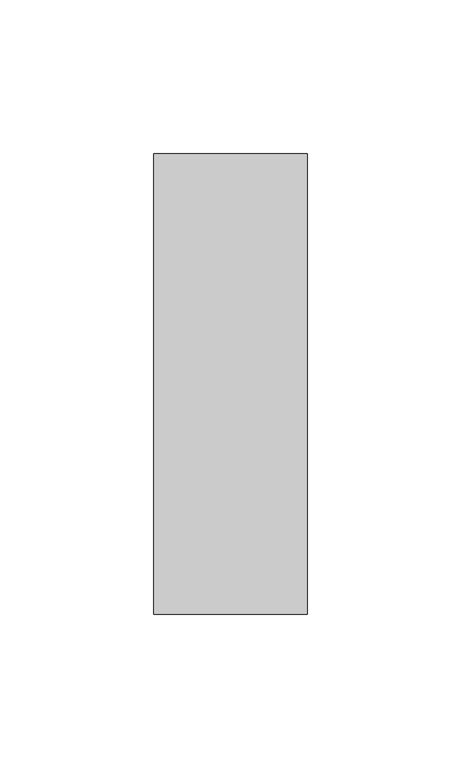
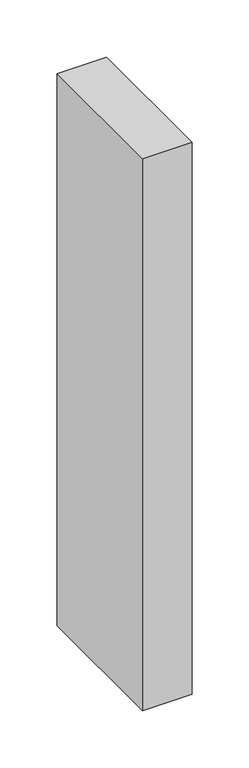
"""IFC4 building model written with IfcOpenShell, lengths in millimetres: member geometry, Прямоугольный импост : 50 x 150 мм."""

import ifcopenshell
import ifcopenshell.guid

model = None  # the IFC model being written
_history = None  # IfcOwnerHistory: only IFC2X3 demands one
_inside = {}  # id of a spatial element -> (the spatial element, [elements in it])
_under = {}  # id of a project, library or spatial element -> (it, [spatial elements below it])
_declared = {}  # id of a project -> (the project, [libraries it declares])
_typed = {}  # id of a type object -> (the type object, [elements of that type])
_made_of = {}  # id of a material, layer set ... -> (it, [elements and type objects made of it])


def new_model(schema):
    """Start an empty IFC model of exactly this schema.

    Asked for "IFC4X3", IfcOpenShell would pick the latest addendum, in which some entities
    have other attributes; the version numbers below select the first issue.
    IFC2X3 requires an IfcOwnerHistory on every rooted entity: one is made here for all.
    """
    global model, _history
    if schema == "IFC4X3":
        model = ifcopenshell.file(schema_version=(4, 3, 0, 0))
    else:
        model = ifcopenshell.file(schema=schema)
    _inside.clear()
    _under.clear()
    _declared.clear()
    _typed.clear()
    _made_of.clear()
    _history = None
    if model.schema == "IFC2X3":
        org = make("IfcOrganization", Name="unknown")
        user = make(
            "IfcPersonAndOrganization",
            ThePerson=make("IfcPerson", FamilyName="unknown"),
            TheOrganization=org,
        )
        app = make(
            "IfcApplication",
            ApplicationDeveloper=org,
            Version="unknown",
            ApplicationFullName="unknown",
            ApplicationIdentifier="unknown",
        )
        _history = make(
            "IfcOwnerHistory",
            OwningUser=user,
            OwningApplication=app,
            ChangeAction="ADDED",
            CreationDate=0,
        )
    return model


def make(cls, **values):
    """One entity of the class cls with the attributes given. An attribute that is None is left unset."""
    return model.create_entity(
        cls, **{name: value for name, value in values.items() if value is not None}
    )


def rooted(cls, **values):
    """An entity with a GlobalId (a new one), such as an element, a storey or a relation."""
    return make(cls, GlobalId=ifcopenshell.guid.new(), OwnerHistory=_history, **values)


def si_unit(unit_type, name, prefix=None):
    """IfcSIUnit, for example si_unit("LENGTHUNIT", "METRE", prefix="MILLI")."""
    return make("IfcSIUnit", UnitType=unit_type, Prefix=prefix, Name=name)


def assignment(units):
    """IfcUnitAssignment: the units of a project."""
    return None if units is None else make("IfcUnitAssignment", Units=units)


def point(xyz):
    """IfcCartesianPoint."""
    return None if xyz is None else make("IfcCartesianPoint", Coordinates=xyz)


def direction(xyz):
    """IfcDirection."""
    return None if xyz is None else make("IfcDirection", DirectionRatios=xyz)


def frame(location, z_axis=None, x_axis=None):
    """IfcAxis2Placement3D, a coordinate frame: its origin and axes. An axis left out is left unset."""
    return make(
        "IfcAxis2Placement3D",
        Location=point(location),
        Axis=direction(z_axis),
        RefDirection=direction(x_axis),
    )


def origin():
    """The frame at (0, 0, 0) with its axes left unset."""
    return frame((0.0, 0.0, 0.0))


def place(relative_to, where):
    """IfcLocalPlacement: puts the frame where relative to a parent placement (None: the world)."""
    return make(
        "IfcLocalPlacement", PlacementRelTo=relative_to, RelativePlacement=where
    )


def context(
    kind, dimensions, precision=None, world=None, true_north=None, identifier=None
):
    """IfcGeometricRepresentationContext, for example the 3D "Model" context."""
    return make(
        "IfcGeometricRepresentationContext",
        ContextIdentifier=identifier,
        ContextType=kind,
        CoordinateSpaceDimension=dimensions,
        Precision=precision,
        WorldCoordinateSystem=world,
        TrueNorth=true_north,
    )


def project(units=None, contexts=None):
    """IfcProject with its units and contexts."""
    return rooted(
        "IfcProject",
        Name="project",
        RepresentationContexts=contexts,
        UnitsInContext=assignment(units),
    )


def spatial(cls, under=None, at=None, **own):
    """A site, building, storey or space (cls), placed at a placement, below another one or the project."""
    s = rooted(cls, ObjectPlacement=at, **own)
    if under is not None:
        _under.setdefault(under.id(), (under, []))[1].append(s)
    return s


def polyline(points):
    """IfcPolyline through the points."""
    return make("IfcPolyline", Points=[point(p) for p in points])


def outline(outer, holes=None, kind="AREA"):
    """IfcArbitraryClosedProfileDef: a profile drawn as a closed curve; with holes, ...WithVoids."""
    if holes is None:
        return make("IfcArbitraryClosedProfileDef", ProfileType=kind, OuterCurve=outer)
    return make(
        "IfcArbitraryProfileDefWithVoids",
        ProfileType=kind,
        OuterCurve=outer,
        InnerCurves=holes,
    )


def extrude(swept, where, along, depth):
    """IfcExtrudedAreaSolid: the profile swept, set in the frame where, extruded along a direction by depth."""
    return make(
        "IfcExtrudedAreaSolid",
        SweptArea=swept,
        Position=where,
        ExtrudedDirection=direction(along),
        Depth=depth,
    )


def shape(context_of_items, identifier, shape_type, items):
    """IfcShapeRepresentation: the items that make up one representation, for example the "Body"."""
    return make(
        "IfcShapeRepresentation",
        ContextOfItems=context_of_items,
        RepresentationIdentifier=identifier,
        RepresentationType=shape_type,
        Items=items,
    )


def source(mapping_origin, context_of_items, identifier, shape_type, items):
    """IfcRepresentationMap: a shape defined once, which mapped items show again and again."""
    return make(
        "IfcRepresentationMap",
        MappingOrigin=mapping_origin,
        MappedRepresentation=shape(context_of_items, identifier, shape_type, items),
    )


def transform(
    local_origin,
    x_axis=None,
    y_axis=None,
    z_axis=None,
    scale=None,
    scale2=None,
    scale3=None,
    uniform=True,
):
    """IfcCartesianTransformationOperator3D, or its non-uniform kind. x_axis, y_axis, z_axis: its Axis1, 2, 3."""
    if uniform:
        return make(
            "IfcCartesianTransformationOperator3D",
            Axis1=direction(x_axis),
            Axis2=direction(y_axis),
            LocalOrigin=point(local_origin),
            Scale=scale,
            Axis3=direction(z_axis),
        )
    return make(
        "IfcCartesianTransformationOperator3DnonUniform",
        Axis1=direction(x_axis),
        Axis2=direction(y_axis),
        LocalOrigin=point(local_origin),
        Scale=scale,
        Axis3=direction(z_axis),
        Scale2=scale2,
        Scale3=scale3,
    )


def mapped(mapping_source, mapping_target):
    """IfcMappedItem: shows the shape of a source again, moved by a transform."""
    return make(
        "IfcMappedItem", MappingSource=mapping_source, MappingTarget=mapping_target
    )


def made_of(thing, what):
    """Note that an element or type object is made of a material, layer set ...; save() writes the relation."""
    if what is not None:
        _made_of.setdefault(what.id(), (what, []))[1].append(thing)
    return thing


def element(
    cls,
    number,
    at=None,
    inside=None,
    cuts=None,
    type_object=None,
    material=None,
    context=None,
    identifier="Body",
    shape_type=None,
    held_by="IfcProductDefinitionShape",
    body=None,
    shapes=None,
    **own,
):
    """One element of the class cls, such as IfcWall. Its Tag is "e" and its number.

    at: its placement. inside: the storey or other place that contains it. cuts: it is an
    opening in that element (IfcRelVoidsElement). A single representation is given by context,
    identifier, shape_type and body (its items); several are given by shapes. held_by: the class
    of the entity that holds the representations. save() writes the other relations.
    """
    e = rooted(cls, Tag="e%d" % number, ObjectPlacement=at, **own)
    if body is not None:
        shapes = [shape(context, identifier, shape_type, body)]
    if shapes is not None:
        e.Representation = make(held_by, Representations=shapes)
    if inside is not None:
        _inside.setdefault(inside.id(), (inside, []))[1].append(e)
    if cuts is not None:
        rooted(
            "IfcRelVoidsElement", RelatingBuildingElement=cuts, RelatedOpeningElement=e
        )
    if type_object is not None:
        _typed.setdefault(type_object.id(), (type_object, []))[1].append(e)
    return made_of(e, material)


def aggregate(whole, parts):
    """IfcRelAggregates: a whole, such as a stair, and the parts it consists of."""
    return rooted("IfcRelAggregates", RelatingObject=whole, RelatedObjects=parts)


def save(model, path):
    """Write the relations noted so far, then the file.

    IfcRelAggregates (storeys below a building ...), IfcRelContainedInSpatialStructure (elements
    in a storey), IfcRelDefinesByType, IfcRelAssociatesMaterial and IfcRelDeclares: one each for
    every whole, place, type object, material and project.
    """
    for whole, parts in _under.values():
        aggregate(whole, parts)
    for where, things in _inside.values():
        rooted(
            "IfcRelContainedInSpatialStructure",
            RelatedElements=things,
            RelatingStructure=where,
        )
    for kind, things in _typed.values():
        rooted("IfcRelDefinesByType", RelatedObjects=things, RelatingType=kind)
    for what, things in _made_of.values():
        rooted("IfcRelAssociatesMaterial", RelatedObjects=things, RelatingMaterial=what)
    for by, libraries in _declared.values():
        rooted("IfcRelDeclares", RelatingContext=by, RelatedDefinitions=libraries)
    model.write(path)


def member_591766a9(model_context):
    return source(origin(), model_context, "Body", "SweptSolid", [
        extrude(outline(polyline([(25.0, 75.0), (25.0, -75.0), (-25.0, -75.0), (-25.0, 75.0), (25.0, 75.0)])), frame((0.0, 0.0, -590.0934441), z_axis=(0.0, 0.0, 1.0), x_axis=(1.0, 0.0, 0.0)), (0.0, 0.0, 1.0), 590.0934441),
    ])


if __name__ == "__main__":
    model = new_model("IFC4")
    model_context = context("Model", 3, world=origin())
    ifc_project = project(units=[si_unit("LENGTHUNIT", "METRE", prefix="MILLI")], contexts=[model_context])
    site = spatial("IfcSite", under=ifc_project)
    building = spatial("IfcBuilding", under=site)
    placement = place(None, origin())
    member_shape = member_591766a9(model_context)
    element("IfcMember", 1, ObjectType="Прямоугольный импост : 50 x 150 мм", at=placement, inside=building, context=model_context, shape_type="MappedRepresentation", body=[
        mapped(member_shape, transform((0.0, 0.0, 0.0), x_axis=(1.0, 0.0, 0.0), y_axis=(0.0, 1.0, 0.0), z_axis=(0.0, 0.0, 1.0))),
    ])
    save(model, "model.ifc")
